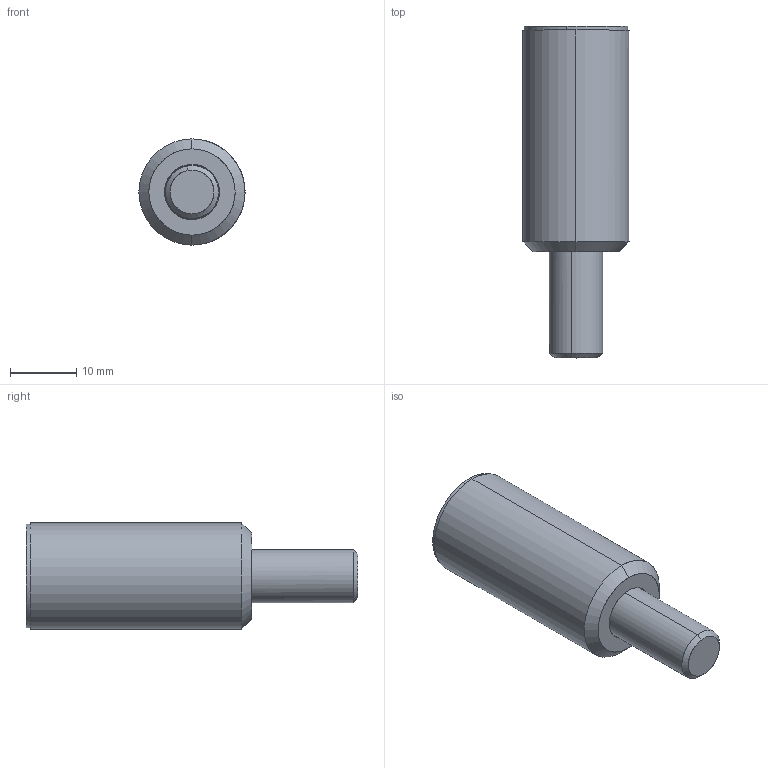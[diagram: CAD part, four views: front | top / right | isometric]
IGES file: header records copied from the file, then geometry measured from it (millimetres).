
Start section: START RECORD GO HERE.
Global section: file name: po340850.igs; native system: DASSAULT SYSTEMES CATIA V5 R20 - www.3ds.com; preprocessor: CATIA Version 5 Release 20 ; author: Utente; organization: NB04-ASUS; date: 20201103.211029; units: millimetre
Bounding box: 16 x 50 x 16 mm (x, y, z)
Surface area: 4425.8 mm2 (no closed solid volume)
Topology: 0 solids, 0 shells, 36 faces, 150 edges, 148 vertices
Faces by surface type: revolution 20, plane 16
